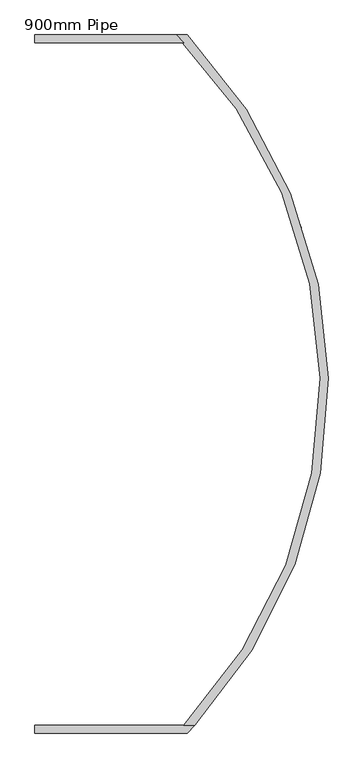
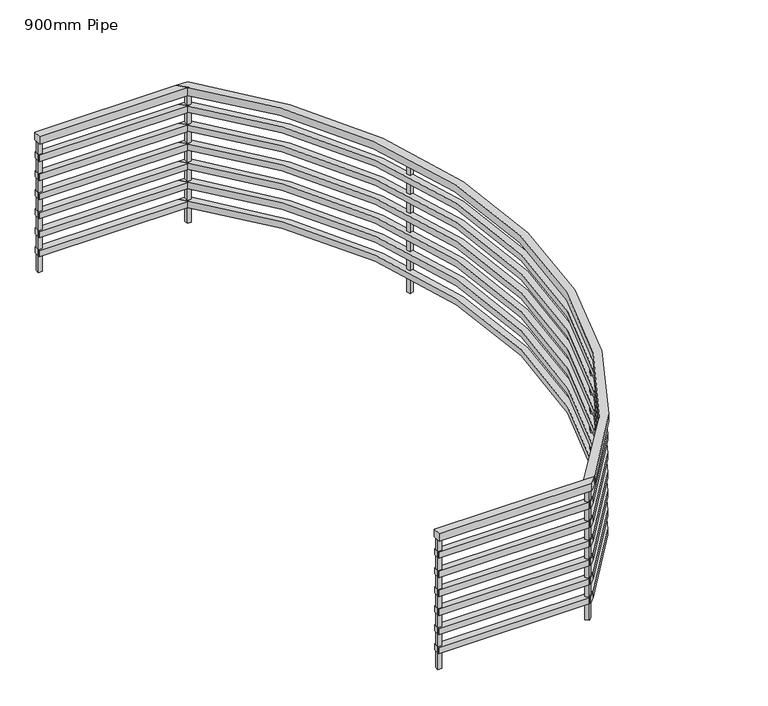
"""IFC4 building model written with IfcOpenShell, lengths in millimetres: railing geometry, 900mm Pipe."""

from ifc_helpers import new_model, si_unit, point, frame, frame_2d, origin, place, context, project, spatial, polyline, circle_curve, trimmed, segment, composite_curve, outline, extrude, source, transform, mapped, element, save


def railing_900mm_pipe_14a70984(model_context):
    return source(origin(), model_context, "Body", "SweptSolid", [
        extrude(outline(polyline([(9362.8037835, 1617.6290541), (9362.8037835, 1667.6290541), (10241.9549687, 1667.6290541), (10289.8816187, 1617.6290541), (9362.8037835, 1617.6290541)])), frame((0.0, 0.0, 9600.0), z_axis=(0.0, 0.0, 1.0), x_axis=(1.0, 0.0, 0.0)), (0.0, 0.0, 1.0), 50.0),
        extrude(outline(composite_curve([segment(trimmed(circle_curve(frame_2d((8057.5374157, -507.3709459)), 3082.0239878), [point((10289.8561343, -2632.3709459))], [point((10241.1689921, 1667.6290541))], True, "CARTESIAN"), True, "CONTINUOUS"), segment(polyline([(10241.1689921, 1667.6290541), (10311.1898424, 1667.6290541)]), True, "CONTINUOUS"), segment(trimmed(circle_curve(frame_2d((8057.5374157, -507.3709459)), 3132.0239878), [point((10311.1898424, 1667.6290541))], [point((10358.3957904, -2632.3709459))], False, "CARTESIAN"), True, "CONTINUOUS"), segment(polyline([(10358.3957904, -2632.3709459), (10289.8561343, -2632.3709459)]), True, "CONTINUOUS")], self_intersect=False)), frame((0.0, 0.0, 9600.0), z_axis=(0.0, 0.0, 1.0), x_axis=(1.0, 0.0, 0.0)), (0.0, 0.0, 1.0), 50.0),
        extrude(outline(polyline([(10358.5151548, -2632.3709459), (10311.6410456, -2682.3709459), (9362.8037835, -2682.3709459), (9362.8037835, -2632.3709459), (10358.5151548, -2632.3709459)])), frame((0.0, 0.0, 9600.0), z_axis=(0.0, 0.0, 1.0), x_axis=(1.0, 0.0, 0.0)), (0.0, 0.0, 1.0), 50.0),
        extrude(outline(polyline([(9362.8037835, 1622.6290541), (9362.8037835, 1662.6290541), (10253.6736454, 1662.6290541), (10292.0149654, 1622.6290541), (9362.8037835, 1622.6290541)])), frame((0.0, 0.0, 9485.0), z_axis=(0.0, 0.0, 1.0), x_axis=(1.0, 0.0, 0.0)), (0.0, 0.0, 1.0), 40.0),
        extrude(outline(composite_curve([segment(trimmed(circle_curve(frame_2d((8057.5374157, -507.3709459)), 3087.0239878), [point((10291.998671, -2637.3709459))], [point((10253.1733376, 1662.6290541))], True, "CARTESIAN"), True, "CONTINUOUS"), segment(polyline([(10253.1733376, 1662.6290541), (10309.065568, 1662.6290541)]), True, "CONTINUOUS"), segment(trimmed(circle_curve(frame_2d((8057.5374157, -507.3709459)), 3127.0239878), [point((10309.065568, 1662.6290541))], [point((10346.9432383, -2637.3709459))], False, "CARTESIAN"), True, "CONTINUOUS"), segment(polyline([(10346.9432383, -2637.3709459), (10291.998671, -2637.3709459)]), True, "CONTINUOUS")], self_intersect=False)), frame((0.0, 0.0, 9485.0), z_axis=(0.0, 0.0, 1.0), x_axis=(1.0, 0.0, 0.0)), (0.0, 0.0, 1.0), 40.0),
        extrude(outline(polyline([(10347.0206968, -2637.3709459), (10309.3551133, -2677.3709459), (9362.8037835, -2677.3709459), (9362.8037835, -2637.3709459), (10347.0206968, -2637.3709459)])), frame((0.0, 0.0, 9485.0), z_axis=(0.0, 0.0, 1.0), x_axis=(1.0, 0.0, 0.0)), (0.0, 0.0, 1.0), 40.0),
        extrude(outline(polyline([(9362.8037835, 1622.6290541), (9362.8037835, 1662.6290541), (10253.6736454, 1662.6290541), (10292.0149654, 1622.6290541), (9362.8037835, 1622.6290541)])), frame((0.0, 0.0, 9360.0), z_axis=(0.0, 0.0, 1.0), x_axis=(1.0, 0.0, 0.0)), (0.0, 0.0, 1.0), 40.0),
        extrude(outline(composite_curve([segment(trimmed(circle_curve(frame_2d((8057.5374157, -507.3709459)), 3087.0239878), [point((10291.998671, -2637.3709459))], [point((10253.1733376, 1662.6290541))], True, "CARTESIAN"), True, "CONTINUOUS"), segment(polyline([(10253.1733376, 1662.6290541), (10309.065568, 1662.6290541)]), True, "CONTINUOUS"), segment(trimmed(circle_curve(frame_2d((8057.5374157, -507.3709459)), 3127.0239878), [point((10309.065568, 1662.6290541))], [point((10346.9432383, -2637.3709459))], False, "CARTESIAN"), True, "CONTINUOUS"), segment(polyline([(10346.9432383, -2637.3709459), (10291.998671, -2637.3709459)]), True, "CONTINUOUS")], self_intersect=False)), frame((0.0, 0.0, 9360.0), z_axis=(0.0, 0.0, 1.0), x_axis=(1.0, 0.0, 0.0)), (0.0, 0.0, 1.0), 40.0),
        extrude(outline(polyline([(10347.0206968, -2637.3709459), (10309.3551133, -2677.3709459), (9362.8037835, -2677.3709459), (9362.8037835, -2637.3709459), (10347.0206968, -2637.3709459)])), frame((0.0, 0.0, 9360.0), z_axis=(0.0, 0.0, 1.0), x_axis=(1.0, 0.0, 0.0)), (0.0, 0.0, 1.0), 40.0),
        extrude(outline(polyline([(9362.8037835, 1622.6290541), (9362.8037835, 1662.6290541), (10253.6736454, 1662.6290541), (10292.0149654, 1622.6290541), (9362.8037835, 1622.6290541)])), frame((0.0, 0.0, 9235.0), z_axis=(0.0, 0.0, 1.0), x_axis=(1.0, 0.0, 0.0)), (0.0, 0.0, 1.0), 40.0),
        extrude(outline(composite_curve([segment(trimmed(circle_curve(frame_2d((8057.5374157, -507.3709459)), 3087.0239878), [point((10291.998671, -2637.3709459))], [point((10253.1733376, 1662.6290541))], True, "CARTESIAN"), True, "CONTINUOUS"), segment(polyline([(10253.1733376, 1662.6290541), (10309.065568, 1662.6290541)]), True, "CONTINUOUS"), segment(trimmed(circle_curve(frame_2d((8057.5374157, -507.3709459)), 3127.0239878), [point((10309.065568, 1662.6290541))], [point((10346.9432383, -2637.3709459))], False, "CARTESIAN"), True, "CONTINUOUS"), segment(polyline([(10346.9432383, -2637.3709459), (10291.998671, -2637.3709459)]), True, "CONTINUOUS")], self_intersect=False)), frame((0.0, 0.0, 9235.0), z_axis=(0.0, 0.0, 1.0), x_axis=(1.0, 0.0, 0.0)), (0.0, 0.0, 1.0), 40.0),
        extrude(outline(polyline([(10347.0206968, -2637.3709459), (10309.3551133, -2677.3709459), (9362.8037835, -2677.3709459), (9362.8037835, -2637.3709459), (10347.0206968, -2637.3709459)])), frame((0.0, 0.0, 9235.0), z_axis=(0.0, 0.0, 1.0), x_axis=(1.0, 0.0, 0.0)), (0.0, 0.0, 1.0), 40.0),
        extrude(outline(polyline([(9362.8037835, 1622.6290541), (9362.8037835, 1662.6290541), (10253.6736454, 1662.6290541), (10292.0149654, 1622.6290541), (9362.8037835, 1622.6290541)])), frame((0.0, 0.0, 9110.0), z_axis=(0.0, 0.0, 1.0), x_axis=(1.0, 0.0, 0.0)), (0.0, 0.0, 1.0), 40.0),
        extrude(outline(composite_curve([segment(trimmed(circle_curve(frame_2d((8057.5374157, -507.3709459)), 3087.0239878), [point((10291.998671, -2637.3709459))], [point((10253.1733376, 1662.6290541))], True, "CARTESIAN"), True, "CONTINUOUS"), segment(polyline([(10253.1733376, 1662.6290541), (10309.065568, 1662.6290541)]), True, "CONTINUOUS"), segment(trimmed(circle_curve(frame_2d((8057.5374157, -507.3709459)), 3127.0239878), [point((10309.065568, 1662.6290541))], [point((10346.9432383, -2637.3709459))], False, "CARTESIAN"), True, "CONTINUOUS"), segment(polyline([(10346.9432383, -2637.3709459), (10291.998671, -2637.3709459)]), True, "CONTINUOUS")], self_intersect=False)), frame((0.0, 0.0, 9110.0), z_axis=(0.0, 0.0, 1.0), x_axis=(1.0, 0.0, 0.0)), (0.0, 0.0, 1.0), 40.0),
        extrude(outline(polyline([(10347.0206968, -2637.3709459), (10309.3551133, -2677.3709459), (9362.8037835, -2677.3709459), (9362.8037835, -2637.3709459), (10347.0206968, -2637.3709459)])), frame((0.0, 0.0, 9110.0), z_axis=(0.0, 0.0, 1.0), x_axis=(1.0, 0.0, 0.0)), (0.0, 0.0, 1.0), 40.0),
        extrude(outline(polyline([(9362.8037835, 1622.6290541), (9362.8037835, 1662.6290541), (10253.6736454, 1662.6290541), (10292.0149654, 1622.6290541), (9362.8037835, 1622.6290541)])), frame((0.0, 0.0, 8985.0), z_axis=(0.0, 0.0, 1.0), x_axis=(1.0, 0.0, 0.0)), (0.0, 0.0, 1.0), 40.0),
        extrude(outline(composite_curve([segment(trimmed(circle_curve(frame_2d((8057.5374157, -507.3709459)), 3087.0239878), [point((10291.998671, -2637.3709459))], [point((10253.1733376, 1662.6290541))], True, "CARTESIAN"), True, "CONTINUOUS"), segment(polyline([(10253.1733376, 1662.6290541), (10309.065568, 1662.6290541)]), True, "CONTINUOUS"), segment(trimmed(circle_curve(frame_2d((8057.5374157, -507.3709459)), 3127.0239878), [point((10309.065568, 1662.6290541))], [point((10346.9432383, -2637.3709459))], False, "CARTESIAN"), True, "CONTINUOUS"), segment(polyline([(10346.9432383, -2637.3709459), (10291.998671, -2637.3709459)]), True, "CONTINUOUS")], self_intersect=False)), frame((0.0, 0.0, 8985.0), z_axis=(0.0, 0.0, 1.0), x_axis=(1.0, 0.0, 0.0)), (0.0, 0.0, 1.0), 40.0),
        extrude(outline(polyline([(10347.0206968, -2637.3709459), (10309.3551133, -2677.3709459), (9362.8037835, -2677.3709459), (9362.8037835, -2637.3709459), (10347.0206968, -2637.3709459)])), frame((0.0, 0.0, 8985.0), z_axis=(0.0, 0.0, 1.0), x_axis=(1.0, 0.0, 0.0)), (0.0, 0.0, 1.0), 40.0),
        extrude(outline(polyline([(9362.8037835, 1622.6290541), (9362.8037835, 1662.6290541), (10253.6736454, 1662.6290541), (10292.0149654, 1622.6290541), (9362.8037835, 1622.6290541)])), frame((0.0, 0.0, 8860.0), z_axis=(0.0, 0.0, 1.0), x_axis=(1.0, 0.0, 0.0)), (0.0, 0.0, 1.0), 40.0),
        extrude(outline(composite_curve([segment(trimmed(circle_curve(frame_2d((8057.5374157, -507.3709459)), 3087.0239878), [point((10291.998671, -2637.3709459))], [point((10253.1733376, 1662.6290541))], True, "CARTESIAN"), True, "CONTINUOUS"), segment(polyline([(10253.1733376, 1662.6290541), (10309.065568, 1662.6290541)]), True, "CONTINUOUS"), segment(trimmed(circle_curve(frame_2d((8057.5374157, -507.3709459)), 3127.0239878), [point((10309.065568, 1662.6290541))], [point((10346.9432383, -2637.3709459))], False, "CARTESIAN"), True, "CONTINUOUS"), segment(polyline([(10346.9432383, -2637.3709459), (10291.998671, -2637.3709459)]), True, "CONTINUOUS")], self_intersect=False)), frame((0.0, 0.0, 8860.0), z_axis=(0.0, 0.0, 1.0), x_axis=(1.0, 0.0, 0.0)), (0.0, 0.0, 1.0), 40.0),
        extrude(outline(polyline([(10347.0206968, -2637.3709459), (10309.3551133, -2677.3709459), (9362.8037835, -2677.3709459), (9362.8037835, -2637.3709459), (10347.0206968, -2637.3709459)])), frame((0.0, 0.0, 8860.0), z_axis=(0.0, 0.0, 1.0), x_axis=(1.0, 0.0, 0.0)), (0.0, 0.0, 1.0), 40.0),
        extrude(outline(polyline([(11020.8322729, -1482.2913272), (11012.9241872, -1506.0076124), (10989.207902, -1498.0995266), (10997.1159878, -1474.3832415), (11020.8322729, -1482.2913272)])), frame((0.0, 0.0, 8750.0), z_axis=(0.0, 0.0, 1.0), x_axis=(1.0, 0.0, 0.0)), (0.0, 0.0, 1.0), 850.0),
        extrude(outline(polyline([(11012.9241872, 491.2657205), (11020.8322729, 467.5494354), (10997.1159878, 459.6413497), (10989.207902, 483.3576348), (11012.9241872, 491.2657205)])), frame((0.0, 0.0, 8750.0), z_axis=(0.0, 0.0, 1.0), x_axis=(1.0, 0.0, 0.0)), (0.0, 0.0, 1.0), 850.0),
        extrude(outline(polyline([(10318.2220608, -2656.9967497), (10300.9225484, -2675.0446546), (10282.8746435, -2657.7451422), (10300.1741559, -2639.6972373), (10318.2220608, -2656.9967497)])), frame((0.0, 0.0, 8750.0), z_axis=(0.0, 0.0, 1.0), x_axis=(1.0, 0.0, 0.0)), (0.0, 0.0, 1.0), 850.0),
        extrude(outline(polyline([(10288.0483521, 1655.1290541), (10313.0483521, 1655.1290541), (10313.0483521, 1630.1290541), (10288.0483521, 1630.1290541), (10288.0483521, 1655.1290541)])), frame((0.0, 0.0, 8750.0), z_axis=(0.0, 0.0, 1.0), x_axis=(1.0, 0.0, 0.0)), (0.0, 0.0, 1.0), 850.0),
        extrude(outline(polyline([(9387.8037835, -2669.8709459), (9362.8037835, -2669.8709459), (9362.8037835, -2644.8709459), (9387.8037835, -2644.8709459), (9387.8037835, -2669.8709459)])), frame((0.0, 0.0, 8750.0), z_axis=(0.0, 0.0, 1.0), x_axis=(1.0, 0.0, 0.0)), (0.0, 0.0, 1.0), 850.0),
        extrude(outline(polyline([(9362.8037835, 1655.1290541), (9387.8037835, 1655.1290541), (9387.8037835, 1630.1290541), (9362.8037835, 1630.1290541), (9362.8037835, 1655.1290541)])), frame((0.0, 0.0, 8750.0), z_axis=(0.0, 0.0, 1.0), x_axis=(1.0, 0.0, 0.0)), (0.0, 0.0, 1.0), 850.0),
    ])


if __name__ == "__main__":
    model = new_model("IFC4")
    model_context = context("Model", 3, world=origin())
    ifc_project = project(units=[si_unit("LENGTHUNIT", "METRE", prefix="MILLI")], contexts=[model_context])
    site = spatial("IfcSite", under=ifc_project)
    building = spatial("IfcBuilding", under=site)
    placement = place(None, origin())
    railing_900mm_pipe_shape = railing_900mm_pipe_14a70984(model_context)
    element("IfcRailing", 1, ObjectType="900mm Pipe", at=placement, inside=building, context=model_context, shape_type="MappedRepresentation", body=[
        mapped(railing_900mm_pipe_shape, transform((0.0, 0.0, 0.0), x_axis=(1.0, 0.0, 0.0), y_axis=(0.0, 1.0, 0.0), z_axis=(0.0, 0.0, 1.0))),
    ])
    save(model, "model.ifc")
